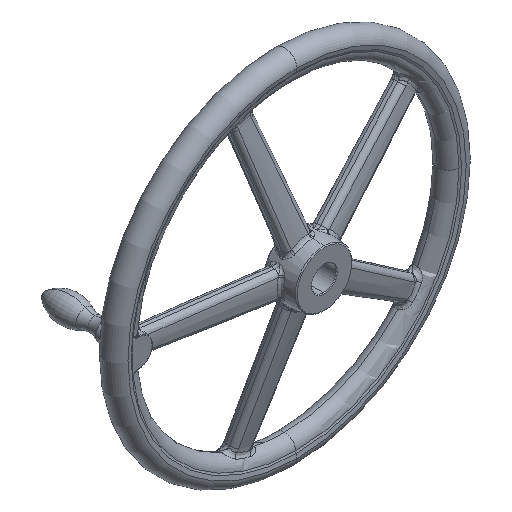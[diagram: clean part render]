
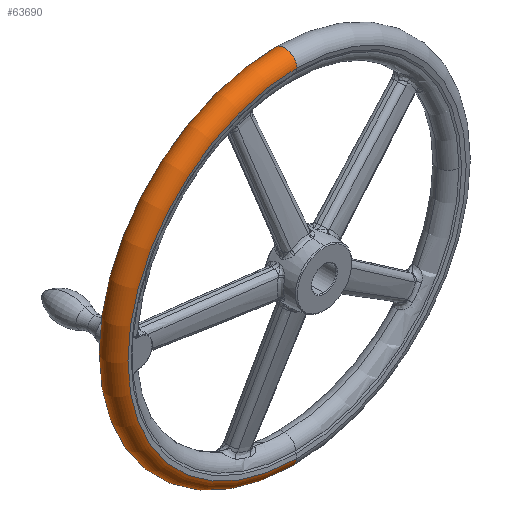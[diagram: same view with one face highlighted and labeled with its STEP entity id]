
A CAD part, isometric view. The second image highlights one B-rep face of the part: STEP entity #63690.
In plain terms, the highlighted toroidal (fillet/blend) face has major radius 232.939 mm and minor radius 17.061 mm.
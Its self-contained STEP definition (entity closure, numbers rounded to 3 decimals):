
#1213 = ORIENTED_EDGE ( 'NONE', *, *, #50326, .T. ) ;
#1240 = ORIENTED_EDGE ( 'NONE', *, *, #29234, .T. ) ;
#6701 = DIRECTION ( 'NONE',  ( 0., -1., 0. ) ) ;
#6702 = CARTESIAN_POINT ( 'NONE',  ( 0., 72., 0. ) ) ;
#6703 = AXIS2_PLACEMENT_3D ( 'NONE', #6702, #6701, #6949 ) ;
#6706 = CIRCLE ( 'NONE', #6703, 234.378 ) ;
#6771 = CARTESIAN_POINT ( 'NONE',  ( 0., 72., 234.378 ) ) ;
#6949 = DIRECTION ( 'NONE',  ( 0., 0., -1. ) ) ;
#6984 = CARTESIAN_POINT ( 'NONE',  ( 0., 72., -234.378 ) ) ;
#6986 = AXIS2_PLACEMENT_3D ( 'NONE', #7052, #7016, #7050 ) ;
#6999 = CIRCLE ( 'NONE', #6986, 17.061 ) ;
#7016 = DIRECTION ( 'NONE',  ( 1., 0., 0. ) ) ;
#7050 = DIRECTION ( 'NONE',  ( 0., 0., -1. ) ) ;
#7051 = CARTESIAN_POINT ( 'NONE',  ( 0., 38., -234.378 ) ) ;
#7052 = CARTESIAN_POINT ( 'NONE',  ( 0., 55., 232.939 ) ) ;
#7067 = DIRECTION ( 'NONE',  ( 0., 0., -1. ) ) ;
#7068 = DIRECTION ( 'NONE',  ( 0., -1., 0. ) ) ;
#7069 = CARTESIAN_POINT ( 'NONE',  ( 0., 38., 0. ) ) ;
#7076 = CIRCLE ( 'NONE', #7082, 234.378 ) ;
#7082 = AXIS2_PLACEMENT_3D ( 'NONE', #7069, #7068, #7067 ) ;
#7084 = CARTESIAN_POINT ( 'NONE',  ( 0., 38., 234.378 ) ) ;
#16901 = CARTESIAN_POINT ( 'NONE',  ( 0., 55., -232.939 ) ) ;
#16902 = AXIS2_PLACEMENT_3D ( 'NONE', #16901, #16941, #16940 ) ;
#16903 = CIRCLE ( 'NONE', #16902, 17.061 ) ;
#16940 = DIRECTION ( 'NONE',  ( 0., 0., 1. ) ) ;
#16941 = DIRECTION ( 'NONE',  ( -1., 0., 0. ) ) ;
#29167 = VERTEX_POINT ( 'NONE', #6771 ) ;
#29234 = EDGE_CURVE ( 'NONE', #29167, #29236, #6706, .T. ) ;
#29236 = VERTEX_POINT ( 'NONE', #6984 ) ;
#29268 = EDGE_CURVE ( 'NONE', #29167, #29280, #6999, .T. ) ;
#29277 = VERTEX_POINT ( 'NONE', #7051 ) ;
#29280 = VERTEX_POINT ( 'NONE', #7084 ) ;
#29288 = EDGE_CURVE ( 'NONE', #29280, #29277, #7076, .T. ) ;
#39310 = DIRECTION ( 'NONE',  ( 0., 0., -1. ) ) ;
#39311 = DIRECTION ( 'NONE',  ( 0., -1., 0. ) ) ;
#39312 = CARTESIAN_POINT ( 'NONE',  ( 0., 55., 0. ) ) ;
#39313 = AXIS2_PLACEMENT_3D ( 'NONE', #39312, #39311, #39310 ) ;
#39315 = TOROIDAL_SURFACE ( 'NONE', #39313, 232.939, 17.061 ) ;
#39317 = FACE_OUTER_BOUND ( 'NONE', #63478, .T. ) ;
#50326 = EDGE_CURVE ( 'NONE', #29236, #29277, #16903, .T. ) ;
#60922 = ORIENTED_EDGE ( 'NONE', *, *, #29268, .F. ) ;
#63478 = EDGE_LOOP ( 'NONE', ( #60922, #1240, #1213, #63635 ) ) ;
#63635 = ORIENTED_EDGE ( 'NONE', *, *, #29288, .F. ) ;
#63690 = ADVANCED_FACE ( 'NONE', ( #39317 ), #39315, .T. ) ;
